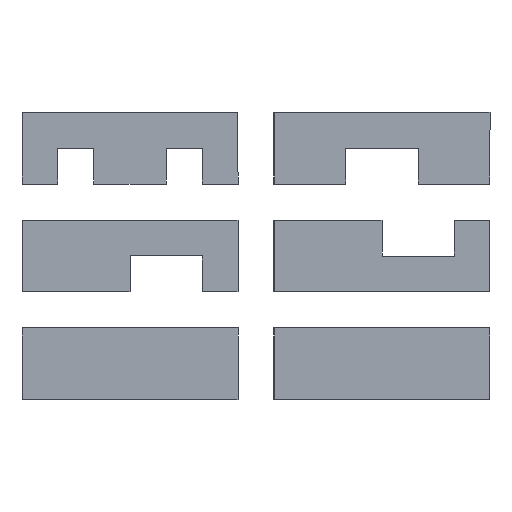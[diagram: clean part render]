
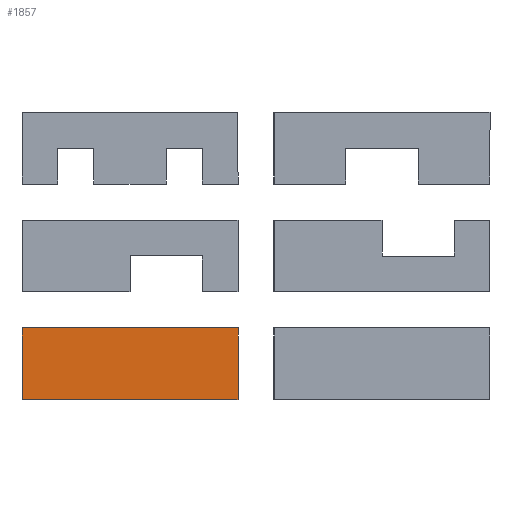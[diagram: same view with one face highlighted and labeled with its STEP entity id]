
A CAD part, front view. The second image highlights one B-rep face of the part: STEP entity #1857.
In plain terms, the highlighted planar face has unit normal (0, -1, 0) as drawn and (-1, 0, 0) by its records, which use the part's own axes.
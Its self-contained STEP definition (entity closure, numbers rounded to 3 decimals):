
#231 = LINE ( 'NONE', #329, #2289 ) ;
#278 = DIRECTION ( 'NONE',  ( 0., -1., 0. ) ) ;
#329 = CARTESIAN_POINT ( 'NONE',  ( -9.975, 60., -9.975 ) ) ;
#443 = ORIENTED_EDGE ( 'NONE', *, *, #2336, .T. ) ;
#519 = DIRECTION ( 'NONE',  ( 0., 0., -1. ) ) ;
#535 = ORIENTED_EDGE ( 'NONE', *, *, #751, .T. ) ;
#649 = EDGE_LOOP ( 'NONE', ( #443, #1542, #928, #535 ) ) ;
#678 = VECTOR ( 'NONE', #278, 1000. ) ;
#710 = VERTEX_POINT ( 'NONE', #2558 ) ;
#751 = EDGE_CURVE ( 'NONE', #1662, #2335, #231, .T. ) ;
#784 = DIRECTION ( 'NONE',  ( 0., 0., 1. ) ) ;
#786 = EDGE_CURVE ( 'NONE', #1662, #1181, #876, .T. ) ;
#876 = LINE ( 'NONE', #1163, #2568 ) ;
#915 = CARTESIAN_POINT ( 'NONE',  ( -9.975, 0., -9.975 ) ) ;
#928 = ORIENTED_EDGE ( 'NONE', *, *, #786, .F. ) ;
#1163 = CARTESIAN_POINT ( 'NONE',  ( -9.975, 60., 9.975 ) ) ;
#1181 = VERTEX_POINT ( 'NONE', #2283 ) ;
#1262 = FACE_OUTER_BOUND ( 'NONE', #649, .T. ) ;
#1282 = CARTESIAN_POINT ( 'NONE',  ( -9.975, 60., 9.975 ) ) ;
#1323 = CARTESIAN_POINT ( 'NONE',  ( -9.975, 60., 9.975 ) ) ;
#1453 = LINE ( 'NONE', #2292, #2066 ) ;
#1516 = DIRECTION ( 'NONE',  ( 1., 0., 0. ) ) ;
#1542 = ORIENTED_EDGE ( 'NONE', *, *, #1634, .F. ) ;
#1634 = EDGE_CURVE ( 'NONE', #1181, #710, #1637, .T. ) ;
#1637 = LINE ( 'NONE', #1282, #678 ) ;
#1662 = VERTEX_POINT ( 'NONE', #2246 ) ;
#1857 = ADVANCED_FACE ( 'NONE', ( #1262 ), #2112, .F. ) ;
#1929 = AXIS2_PLACEMENT_3D ( 'NONE', #1323, #1516, #519 ) ;
#2066 = VECTOR ( 'NONE', #2459, 1000. ) ;
#2112 = PLANE ( 'NONE',  #1929 ) ;
#2143 = DIRECTION ( 'NONE',  ( 0., -1., 0. ) ) ;
#2246 = CARTESIAN_POINT ( 'NONE',  ( -9.975, 60., -9.975 ) ) ;
#2283 = CARTESIAN_POINT ( 'NONE',  ( -9.975, 60., 9.975 ) ) ;
#2289 = VECTOR ( 'NONE', #2143, 1000. ) ;
#2292 = CARTESIAN_POINT ( 'NONE',  ( -9.975, 0., 9.975 ) ) ;
#2335 = VERTEX_POINT ( 'NONE', #915 ) ;
#2336 = EDGE_CURVE ( 'NONE', #2335, #710, #1453, .T. ) ;
#2459 = DIRECTION ( 'NONE',  ( 0., 0., 1. ) ) ;
#2558 = CARTESIAN_POINT ( 'NONE',  ( -9.975, 0., 9.975 ) ) ;
#2568 = VECTOR ( 'NONE', #784, 1000. ) ;
